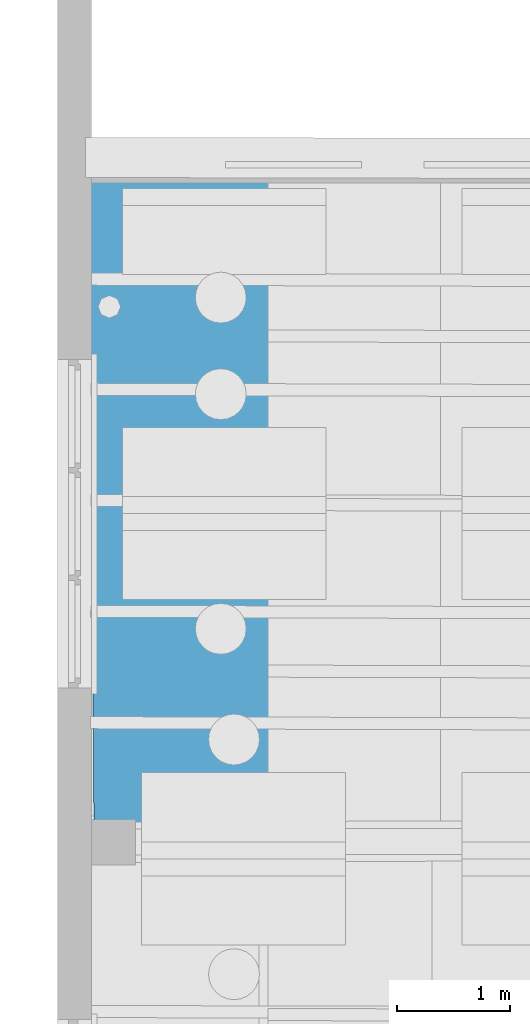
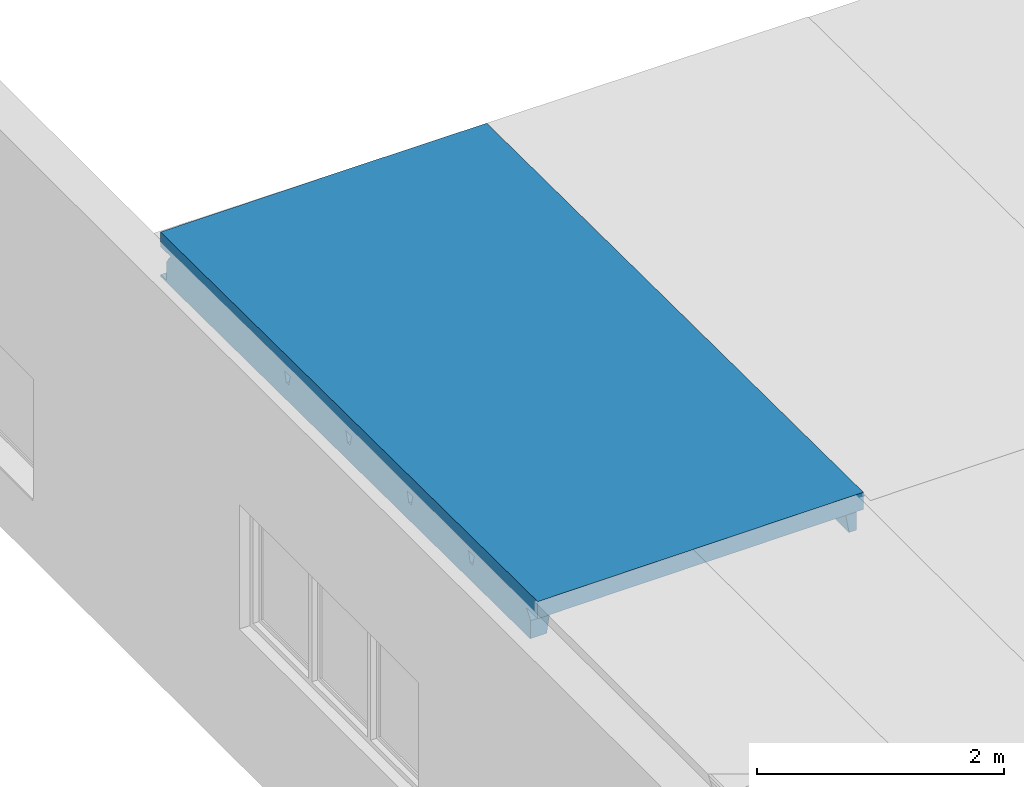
# One storey, part 22 of 153: 1 beam.
"""IFC2X3 building model written with IfcOpenShell, lengths in millimetres."""

from ifc_helpers import new_model, entity, si_unit, converted_unit, derived_unit, money_unit, direction, frame, origin_with_axes, place, context, subcontext, project, spatial, faceted_brep, material, type_object, element, save


model = new_model("IFC2X3")

# Units and contexts
model_context = context("Model", 3, precision=0.01, world=origin_with_axes(), true_north=direction((0.0, 1.0)))
body_context = subcontext(model_context, "Body", "Model", "MODEL_VIEW")
ifc_project = project(units=[si_unit("LENGTHUNIT", "METRE", prefix="MILLI"), si_unit("AREAUNIT", "SQUARE_METRE"), si_unit("VOLUMEUNIT", "CUBIC_METRE"), converted_unit("PLANEANGLEUNIT", "DEGREE", entity("IfcPlaneAngleMeasure", 0.0174532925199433), si_unit("PLANEANGLEUNIT", "RADIAN"), dimensions=[0, 0, 0, 0, 0, 0, 0]), money_unit("EUR"), converted_unit("TIMEUNIT", "Year", entity("IfcTimeMeasure", 31557600.0), si_unit("TIMEUNIT", "SECOND"), dimensions=[0, 0, 1, 0, 0, 0, 0]), si_unit("MASSUNIT", "GRAM", prefix="KILO"), si_unit("THERMODYNAMICTEMPERATUREUNIT", "DEGREE_CELSIUS"), si_unit("LUMINOUSINTENSITYUNIT", "LUMEN"), si_unit("ENERGYUNIT", "JOULE", prefix="MEGA"), derived_unit("THERMALCONDUCTANCEUNIT", [(si_unit("POWERUNIT", "WATT"), 1), (si_unit("LENGTHUNIT", "METRE"), -1), (si_unit("THERMODYNAMICTEMPERATUREUNIT", "KELVIN"), -1)]), derived_unit("SPECIFICHEATCAPACITYUNIT", [(si_unit("ENERGYUNIT", "JOULE"), 1), (si_unit("MASSUNIT", "GRAM", prefix="KILO"), -1), (si_unit("THERMODYNAMICTEMPERATUREUNIT", "KELVIN"), -1)]), derived_unit("MASSDENSITYUNIT", [(si_unit("MASSUNIT", "GRAM", prefix="KILO"), 1), (si_unit("VOLUMEUNIT", "CUBIC_METRE"), -1)])], contexts=[model_context])

# Site, building, storey
site_placement = place(None, frame((0.0, 0.0, 8650.0), z_axis=(0.0, 0.0, 1.0), x_axis=(1.0, 0.0, 0.0)))
site = spatial("IfcSite", under=ifc_project, at=site_placement, Name="43301:001:0844", CompositionType="ELEMENT")
building_placement = place(site_placement, origin_with_axes())
building = spatial("IfcBuilding", under=site, at=building_placement, Name="Kuressaare Ametikooli tuulikute mehaanikute õppekorpus", CompositionType="ELEMENT")
storey_placement = place(building_placement, frame((0.0, 0.0, 4100.0), z_axis=(0.0, 0.0, 1.0), x_axis=(1.0, 0.0, 0.0)))
storey = spatial("IfcBuildingStorey", under=building, at=storey_placement, Name="2.korrus", CompositionType="ELEMENT", Elevation=4100.0)

# Beam
ifc_material = material(Name="GENEERILINE - KONSTRUKTRIOON")
beam_type = type_object("IfcBeamType", Name="Precast Double Tee 5 3052 x 440", PredefinedType="NOTDEFINED")
beam_placement = place(storey_placement, frame((89772.00566424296, 38065.7725529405, 2975.0), z_axis=(0.0, 0.0, 1.0), x_axis=(-0.9999823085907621, -0.005948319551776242, 0.0)))
element("IfcBeam", 1, at=beam_placement, inside=storey, type_object=beam_type, material=ifc_material, context=body_context, shape_type="Brep", body=[
    faceted_brep([(1525.793513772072, 5923.137402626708, -258.4370837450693), (1525.793513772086, 5923.137941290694, -434.9999999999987), (1375.006807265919, 5923.491693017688, -434.9999999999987), (1347.227019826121, 5923.556326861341, -258.4370837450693), (1525.793513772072, 5917.73681317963, -440.0001340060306), (1525.793513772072, 5917.73681317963, -434.9999999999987), (1525.793513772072, 5903.915894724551, -226.2850273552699), (1525.793513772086, 5881.050039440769, -196.613920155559), (1525.793513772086, 5854.856556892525, -169.8347433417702), (1525.793513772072, 6037.597077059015, -169.8347433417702), (1525.793513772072, 6037.597077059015, 0.0), (1525.793513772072, 0.0, 0.0), (1525.793513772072, 0.0, -144.9098486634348), (1525.793513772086, 161.9032410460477, -144.9098486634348), (1525.793513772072, 150.9403309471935, -156.4427065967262), (1525.793513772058, 119.2668075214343, -197.4581574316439), (1525.793513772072, 93.67397214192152, -242.5188171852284), (1525.793513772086, 93.67343438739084, -420.0865585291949), (1525.793513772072, 0.0, -420.0865585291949), (1525.793513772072, 0.0, -440.0001340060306), (1525.793513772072, 4930.934323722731, -175.4405967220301), (1525.793513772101, 4922.735239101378, -169.866336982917), (1525.793513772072, 5029.766967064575, -169.866336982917), (1525.793513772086, 5021.567815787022, -175.4406717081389), (1525.793513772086, 5016.993032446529, -184.2365347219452), (1525.793513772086, 4996.252304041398, -271.8138152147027), (1525.793513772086, 4956.250817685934, -271.8138152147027), (1525.793513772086, 4935.509127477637, -184.236339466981), (1525.793513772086, 3940.009154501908, -169.866336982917), (1525.793513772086, 4047.04088246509, -169.866336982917), (1525.793513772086, 4038.841731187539, -175.4406717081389), (1525.793513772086, 4034.266947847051, -184.2365347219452), (1525.793513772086, 4013.526219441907, -271.8138152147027), (1525.793513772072, 3973.524733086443, -271.8138152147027), (1525.793513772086, 3952.783042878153, -184.236339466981), (1525.793513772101, 3948.20823912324, -175.4405967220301), (1525.793513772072, 3066.471969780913, -169.866336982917), (1525.793513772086, 3058.272818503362, -175.4406717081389), (1525.793513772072, 3053.698035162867, -184.2365347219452), (1525.793513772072, 3032.957306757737, -271.8138152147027), (1525.793513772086, 2992.955820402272, -271.8138152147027), (1525.793513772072, 2972.214130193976, -184.236339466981), (1525.793513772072, 2967.639326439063, -175.4405967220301), (1525.793513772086, 2959.440241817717, -169.866336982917), (1525.793513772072, 2077.330024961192, -175.4406717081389), (1525.793513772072, 2072.755241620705, -184.2365347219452), (1525.793513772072, 2052.01451321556, -271.8138152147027), (1525.793513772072, 2012.013026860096, -271.8138152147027), (1525.793513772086, 1991.271336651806, -184.236339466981), (1525.793513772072, 1986.6965328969, -175.4405967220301), (1525.793513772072, 1978.497448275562, -169.866336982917), (1525.793513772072, 2085.529176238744, -169.866336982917), (1375.006807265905, 5918.218969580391, -434.9999999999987), (1375.793510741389, 5918.216454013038, -440.0001340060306), (1375.793510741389, 0.0, -440.0001340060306), (1372.660378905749, 0.0, -420.0865585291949), (1372.660378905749, 94.91836716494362, -420.0865585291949), (1344.722495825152, 95.14603268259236, -242.5188171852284), (1341.120983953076, 108.1762978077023, -219.6283094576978), (1341.120983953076, 1028.766260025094, -219.6283094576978), (1349.331667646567, 1041.05499725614, -271.8138152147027), (1349.331667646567, 1081.056483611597, -271.8138152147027), (1341.120983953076, 1093.486241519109, -219.6283094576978), (1341.120983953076, 2001.245541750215, -219.6283094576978), (1349.331667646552, 2013.534278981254, -271.8138152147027), (1349.331667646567, 2053.535765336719, -271.8138152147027), (1341.120983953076, 2065.965523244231, -219.6283094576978), (1341.120983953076, 2982.188335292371, -219.6283094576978), (1349.331667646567, 2994.477072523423, -271.8138152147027), (1349.331667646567, 3034.478558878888, -271.8138152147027), (1341.120983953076, 3046.908316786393, -219.6283094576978), (1341.120983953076, 3962.757247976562, -219.6283094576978), (1349.331667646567, 3975.045985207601, -271.8138152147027), (1349.331667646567, 4015.047471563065, -271.8138152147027), (1341.120983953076, 4027.47722947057, -219.6283094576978), (1341.120983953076, 4945.483332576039, -219.6283094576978), (1349.331667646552, 4957.772069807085, -271.8138152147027), (1349.331667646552, 4997.77355616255, -271.8138152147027), (1341.120983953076, 5010.203314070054, -219.6283094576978), (1341.120983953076, 5899.219185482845, -219.6283094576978), (1342.168328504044, 5904.346686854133, -226.2850273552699), (1335.231751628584, 5884.049989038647, -199.9265840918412), (1332.694622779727, 5881.503057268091, -196.613920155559), (1322.728523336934, 5868.798557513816, -183.6014402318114), (1305.241949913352, 5858.256753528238, -172.7819767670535), (1289.995499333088, 5855.409748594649, -169.8347433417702), (1289.995499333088, 6037.597077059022, -169.8347433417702), (-1362.613598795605, 6037.597077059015, -169.8234995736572), (-1362.705748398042, 6037.597077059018, -169.8347433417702), (-1525.793513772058, 6037.597077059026, -169.8347433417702), (-1525.793513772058, 6037.597077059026, 0.0), (1285.052602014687, 6037.597077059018, -168.8792506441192), (-1525.793513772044, 7.595304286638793, 0.0), (-248.9337470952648, 0.0, 0.0), (-248.9337470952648, 0.0, -144.9098486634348), (-1525.793513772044, 7.595304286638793, -144.9098486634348), (-1525.793513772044, 186.7118542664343, -144.9098486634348), (-1525.793513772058, 175.7489441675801, -156.4427065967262), (-1407.703039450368, 146.1460136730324, -193.5336498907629), (-1395.945134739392, 156.3199655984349, -180.2351660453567), (-1380.233917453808, 162.5722007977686, -171.973468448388), (-1362.61359879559, 164.089231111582, -169.8234995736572), (1285.052602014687, 143.293570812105, -168.8792506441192), (1305.241949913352, 140.1156190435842, -172.7819767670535), (1322.728523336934, 131.6183007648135, -183.6014402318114), (1333.341213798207, 120.8313949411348, -197.4581574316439), (-1525.793513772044, 144.075420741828, -197.4581574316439), (-1409.186046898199, 143.1274321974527, -197.4581574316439), (1335.231751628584, 119.4140477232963, -199.9265840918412), (1309.538849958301, 4932.798623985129, -175.4405967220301), (1305.241949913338, 4928.925147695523, -172.7819767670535), (1290.158937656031, 4924.766610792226, -169.866336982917), (1290.158937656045, 5031.798338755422, -169.866336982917), (1309.538971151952, 5023.432115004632, -175.4406717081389), (1305.241949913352, 5027.379767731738, -172.7819767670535), (1323.214934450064, 5018.739433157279, -184.2365347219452), (1322.728523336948, 5019.073943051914, -183.6014402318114), (1335.231751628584, 5014.919999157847, -199.9265840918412), (1335.231751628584, 4940.867981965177, -199.9265840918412), (1323.214784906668, 4937.255529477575, -184.236339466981), (1322.728523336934, 4936.929500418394, -183.6014402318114), (1290.158937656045, 4049.072254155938, -169.866336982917), (1290.158937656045, 3942.040526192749, -169.866336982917), (1305.241949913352, 4044.653683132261, -172.7819767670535), (1309.538971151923, 4040.706030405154, -175.4406717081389), (1322.728523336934, 4036.34785845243, -183.6014402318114), (1323.21493445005, 4036.013348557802, -184.2365347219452), (1335.231751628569, 4032.193914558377, -199.9265840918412), (1335.231751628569, 3958.141897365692, -199.9265840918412), (1323.214784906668, 3954.529444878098, -184.236339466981), (1322.728523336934, 3954.20341581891, -183.6014402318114), (1309.538849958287, 3950.072539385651, -175.4405967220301), (1305.241949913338, 3946.199063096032, -172.7819767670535), (1290.158937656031, 3068.503341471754, -169.866336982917), (1305.241949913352, 3064.084770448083, -172.7819767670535), (1309.538971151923, 3060.137117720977, -175.4406717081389), (1322.728523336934, 3055.778945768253, -183.6014402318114), (1323.214934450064, 3055.444435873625, -184.2365347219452), (1335.231751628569, 3051.625001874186, -199.9265840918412), (1335.231751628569, 2977.572984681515, -199.9265840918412), (1323.214784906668, 2973.960532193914, -184.236339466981), (1322.728523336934, 2973.634503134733, -183.6014402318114), (1309.538849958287, 2969.503626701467, -175.4405967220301), (1305.241949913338, 2965.630150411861, -172.7819767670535), (1290.158937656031, 2961.471613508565, -169.866336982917), (1309.538971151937, 2079.194324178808, -175.4406717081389), (1322.728523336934, 2074.836152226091, -183.6014402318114), (1323.214934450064, 2074.501642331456, -184.2365347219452), (1335.231751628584, 2070.68220833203, -199.9265840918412), (1323.214784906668, 1993.017738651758, -184.236339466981), (1335.231751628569, 1996.630191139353, -199.9265840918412), (1322.728523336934, 1992.69170959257, -183.6014402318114), (1309.538849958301, 1988.560833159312, -175.4405967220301), (1305.241949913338, 1984.687356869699, -172.7819767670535), (1290.158937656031, 1980.528819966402, -169.866336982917), (1290.158937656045, 2087.560547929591, -169.866336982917), (1305.241949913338, 2083.141976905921, -172.7819767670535), (1335.231751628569, 1024.150909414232, -199.9265840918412), (1519.227661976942, 1018.848658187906, -184.236339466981), (1519.406459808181, 1039.588807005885, -271.8138152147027), (1323.214784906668, 1020.53845692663, -184.236339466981), (1519.751281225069, 1079.587320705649, -271.8138152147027), (1519.930070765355, 1100.326507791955, -184.2365347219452), (1323.214934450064, 1102.022360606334, -184.2365347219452), (1335.231751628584, 1098.202926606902, -199.9265840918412), (1305.241949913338, 1110.662695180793, -172.7819767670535), (1290.158937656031, 1115.08126620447, -169.866336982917), (1290.158937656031, 1008.049538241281, -169.866336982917), (1305.241949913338, 1012.208075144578, -172.7819767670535), (-1380.233917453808, 1034.169953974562, -171.973468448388), (-1362.964677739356, 1030.921734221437, -169.866336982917), (-1362.96467773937, 1137.953462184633, -169.866336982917), (-1380.233917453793, 1135.003010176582, -171.973468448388), (-1380.233917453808, 2006.649235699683, -171.973468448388), (-1362.96467773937, 2003.401015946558, -169.866336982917), (-1362.96467773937, 2110.432743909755, -169.866336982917), (-1380.233917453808, 2107.482291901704, -171.973468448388), (-1380.233917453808, 2987.592029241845, -171.973468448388), (-1362.96467773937, 2984.343809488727, -169.866336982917), (-1362.96467773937, 3091.375537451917, -169.866336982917), (-1380.233917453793, 3088.425085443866, -171.973468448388), (-1380.233917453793, 3968.160941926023, -171.973468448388), (-1362.96467773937, 3964.912722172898, -169.866336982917), (-1362.96467773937, 4071.944450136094, -169.866336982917), (-1380.233917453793, 4068.993998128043, -171.973468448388), (-1380.233917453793, 4950.887026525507, -171.973468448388), (-1362.964677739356, 4947.638806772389, -169.866336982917), (-1362.96467773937, 5054.670534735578, -169.866336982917), (-1380.233917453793, 5051.720082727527, -171.973468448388), (-1380.233917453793, 5863.766163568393, -171.973468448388), (-1362.705748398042, 5861.633093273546, -169.8347433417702), (-1525.793513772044, 5862.015703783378, -169.8347433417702), (-1525.793513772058, 5930.297088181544, -434.9999999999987), (-1525.793513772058, 5927.494584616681, -434.9999999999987), (-1525.793513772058, 5927.494584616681, -440.0001340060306), (-1525.793513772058, 0.0, -440.0001340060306), (-1525.793513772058, 0.0, -420.0865585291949), (-1525.793513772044, 118.4820476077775, -420.0865585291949), (-1525.793513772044, 118.4825853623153, -242.5188171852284), (-1525.793513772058, 5888.209186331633, -196.613920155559), (-1525.793513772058, 5911.075041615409, -226.2850273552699), (-1525.793513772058, 5930.296549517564, -258.4370837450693), (-1525.793513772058, 5043.300324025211, -184.2365347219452), (-1525.793513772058, 5047.875107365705, -175.4406717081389), (-1525.793513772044, 5056.07425864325, -169.866336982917), (-1525.793513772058, 4949.042530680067, -169.866336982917), (-1525.793513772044, 4957.241615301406, -175.4405967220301), (-1525.793513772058, 4961.816419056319, -184.236339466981), (-1525.793513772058, 4982.558109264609, -271.8138152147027), (-1525.793513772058, 5022.559595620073, -271.8138152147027), (-1525.793513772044, 4065.149022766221, -175.4406717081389), (-1525.793513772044, 4073.34817404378, -169.866336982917), (-1525.793513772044, 3966.316446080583, -169.866336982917), (-1525.793513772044, 3974.515530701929, -175.4405967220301), (-1525.793513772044, 3979.090334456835, -184.236339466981), (-1525.793513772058, 3999.832024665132, -271.8138152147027), (-1525.793513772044, 4039.833511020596, -271.8138152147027), (-1525.793513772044, 4060.574239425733, -184.2365347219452), (-1525.793513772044, 3092.779261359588, -169.866336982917), (-1525.793513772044, 2985.747533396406, -169.866336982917), (-1525.793513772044, 2993.946618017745, -175.4405967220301), (-1525.793513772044, 2998.521421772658, -184.236339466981), (-1525.793513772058, 3019.263111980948, -271.8138152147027), (-1525.793513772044, 3059.264598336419, -271.8138152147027), (-1525.793513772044, 3080.005326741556, -184.2365347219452), (-1525.793513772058, 3084.580110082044, -175.4406717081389), (-1525.793513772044, 2004.804739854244, -169.866336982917), (-1525.793513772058, 2013.003824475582, -175.4405967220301), (-1525.793513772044, 2017.578628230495, -184.236339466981), (-1525.793513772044, 2038.320318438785, -271.8138152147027), (-1525.793513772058, 2078.32180479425, -271.8138152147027), (-1525.793513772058, 2099.062533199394, -184.2365347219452), (-1525.793513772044, 2103.637316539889, -175.4406717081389), (-1525.793513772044, 2111.836467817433, -169.866336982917), (-1525.793513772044, 1040.524542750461, -175.4405967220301), (-1525.793513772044, 1045.099346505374, -184.236339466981), (-1525.79351377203, 1065.841036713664, -271.8138152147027), (-1525.793513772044, 1105.842523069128, -271.8138152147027), (-1525.793513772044, 1126.583251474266, -184.2365347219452), (-1525.793513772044, 1131.15803481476, -175.4406717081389), (-1525.793513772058, 1139.357186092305, -169.866336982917), (-1525.793513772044, 1032.325458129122, -169.866336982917), (-1395.945134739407, 1041.898869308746, -180.2351660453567), (-1407.703039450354, 1046.283263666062, -193.5336498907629), (-1399.48278732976, 1044.0104399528, -184.236339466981), (-1386.827333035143, 1039.326535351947, -175.4405967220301), (1322.728523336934, 1020.212427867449, -183.6014402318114), (1309.538849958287, 1016.081551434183, -175.4405967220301), (-1419.868299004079, 117.6214407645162, -242.5188171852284), (-1413.977792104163, 135.964333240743, -210.1386333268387), (-1413.977792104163, 1050.270051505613, -210.1386333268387), (1322.728523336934, 1102.356870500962, -183.6014402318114), (1309.538971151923, 1106.715042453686, -175.4406717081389), (1519.188226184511, 1014.274194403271, -175.4405967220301), (1519.117548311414, 1006.075719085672, -169.866336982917), (1520.040184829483, 1113.099493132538, -169.866336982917), (1519.969506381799, 1104.900951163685, -175.4406717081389), (-1386.827475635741, 1129.960028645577, -175.4406717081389), (-1395.945134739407, 2014.378151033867, -180.2351660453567), (-1386.827333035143, 2011.805817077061, -175.4405967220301), (-1395.945134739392, 1127.54498419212, -180.2351660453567), (-1386.827475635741, 2102.439310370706, -175.4406717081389), (-1395.945134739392, 2100.024265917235, -180.2351660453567), (-1395.945134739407, 2995.320944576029, -180.2351660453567), (-1386.827333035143, 2992.74861061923, -175.4405967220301), (-1386.827475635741, 3083.382103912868, -175.4406717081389), (-1395.945134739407, 3080.967059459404, -180.2351660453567), (-1395.945134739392, 3975.889857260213, -180.2351660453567), (-1386.827333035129, 3973.317523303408, -175.4405967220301), (-1386.827475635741, 4063.951016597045, -175.4406717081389), (-1395.945134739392, 4061.535972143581, -180.2351660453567), (-1395.945134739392, 4958.615941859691, -180.2351660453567), (-1386.827333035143, 4956.043607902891, -175.4405967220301), (-1386.827475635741, 5046.677101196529, -175.4406717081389), (-1395.945134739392, 5871.884026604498, -180.2351660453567), (-1395.945134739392, 5044.262056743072, -180.2351660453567), (-1407.703039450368, 5884.919240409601, -193.5336498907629), (-1408.867023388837, 5887.934872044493, -196.613920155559), (-1454.883904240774, 5927.267843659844, -434.9999999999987), (-1454.883904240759, 5930.130731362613, -434.9999999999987), (-1455.793513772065, 5927.270752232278, -440.0001340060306), (-1455.793513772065, 0.0, -440.0001340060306), (-1452.170895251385, 0.0, -420.0865585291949), (-1452.170895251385, 117.8835147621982, -420.0865585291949), (-1413.977792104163, 5898.369598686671, -210.1386333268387), (-1416.915096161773, 5910.8196084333, -226.2850273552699), (-1422.764102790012, 5930.054838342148, -258.4370837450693), (-1399.482959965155, 5042.211418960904, -184.2365347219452), (-1399.482787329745, 4960.727512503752, -184.236339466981), (-1413.977792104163, 4966.987124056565, -210.1386333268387), (-1425.197558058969, 4981.690886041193, -271.8138152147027), (-1407.703039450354, 4963.000336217, -193.5336498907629), (-1425.197558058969, 5021.692372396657, -271.8138152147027), (-1407.703039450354, 5040.080468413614, -193.5336498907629), (-1413.977792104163, 5036.202041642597, -210.1386333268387), (-1399.482787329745, 3978.00142790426, -184.236339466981), (-1425.197558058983, 3998.964801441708, -271.8138152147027), (-1407.703039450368, 3980.27425161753, -193.5336498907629), (-1413.977792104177, 3984.261039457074, -210.1386333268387), (-1425.197558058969, 4038.966287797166, -271.8138152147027), (-1399.482959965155, 4059.485334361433, -184.2365347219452), (-1413.977792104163, 4053.475957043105, -210.1386333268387), (-1407.703039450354, 4057.354383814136, -193.5336498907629), (-1399.48278732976, 2997.43251522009, -184.236339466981), (-1407.703039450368, 2999.705338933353, -193.5336498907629), (-1413.977792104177, 3003.692126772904, -210.1386333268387), (-1425.197558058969, 3018.395888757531, -271.8138152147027), (-1425.197558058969, 3058.397375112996, -271.8138152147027), (-1413.977792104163, 3072.907044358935, -210.1386333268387), (-1407.703039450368, 3076.785471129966, -193.5336498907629), (-1399.482959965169, 3078.916421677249, -184.2365347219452), (-1399.482787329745, 2016.489721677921, -184.236339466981), (-1407.703039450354, 2018.762545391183, -193.5336498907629), (-1413.977792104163, 2022.749333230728, -210.1386333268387), (-1425.197558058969, 2037.453095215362, -271.8138152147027), (-1425.197558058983, 2077.454581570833, -271.8138152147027), (-1413.977792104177, 2091.964250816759, -210.1386333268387), (-1407.703039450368, 2095.84267758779, -193.5336498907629), (-1399.482959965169, 2097.973628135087, -184.2365347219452), (-1425.197558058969, 1064.973813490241, -271.8138152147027), (-1425.197558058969, 1104.975299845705, -271.8138152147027), (-1413.977792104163, 1119.484969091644, -210.1386333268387), (-1407.703039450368, 1123.363395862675, -193.5336498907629), (-1399.482959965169, 1125.494346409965, -184.2365347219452)], [[[0, 1, 2, 3]], [[4, 5, 1, 0, 6, 7, 8, 9, 10, 11, 12, 13, 14, 15, 16, 17, 18, 19], [20, 21, 22, 23, 24, 25, 26, 27], [28, 29, 30, 31, 32, 33, 34, 35], [36, 37, 38, 39, 40, 41, 42, 43], [44, 45, 46, 47, 48, 49, 50, 51]], [[5, 52, 2, 1]], [[2, 52, 53, 54, 55, 56, 57, 58, 59, 60, 61, 62, 63, 64, 65, 66, 67, 68, 69, 70, 71, 72, 73, 74, 75, 76, 77, 78, 79, 80, 3]], [[0, 3, 80, 6]], [[4, 53, 52, 5]], [[6, 80, 79, 81, 82, 7]], [[7, 82, 83, 84, 85, 8]], [[8, 85, 86, 9]], [[87, 88, 89, 90, 10, 9, 86, 91]], [[90, 92, 93, 11, 10]], [[12, 11, 93, 94]], [[13, 12, 94, 95, 96]], [[14, 13, 96, 97]], [[98, 99, 100, 101, 102, 103, 104, 105, 15, 14, 97, 106, 107]], [[58, 57, 16, 15, 105, 108]], [[17, 16, 57, 56]], [[18, 17, 56, 55]], [[54, 19, 18, 55]], [[54, 53, 4, 19]], [[21, 20, 109, 110, 111]], [[111, 112, 22, 21]], [[113, 23, 22, 112, 114]], [[115, 24, 23, 113, 116]], [[25, 24, 115, 117, 78, 77]], [[77, 76, 26, 25]], [[76, 75, 118, 119, 27, 26]], [[20, 27, 119, 120, 109]], [[121, 29, 28, 122]], [[30, 29, 121, 123, 124]], [[31, 30, 124, 125, 126]], [[31, 126, 127, 74, 73, 32]], [[72, 33, 32, 73]], [[71, 128, 129, 34, 33, 72]], [[34, 129, 130, 131, 35]], [[35, 131, 132, 122, 28]], [[36, 133, 134, 135, 37]], [[37, 135, 136, 137, 38]], [[137, 138, 70, 69, 39, 38]], [[40, 39, 69, 68]], [[139, 140, 41, 40, 68, 67]], [[140, 141, 142, 42, 41]], [[142, 143, 144, 43, 42]], [[36, 43, 144, 133]], [[145, 146, 147, 45, 44]], [[148, 66, 65, 46, 45, 147]], [[46, 65, 64, 47]], [[149, 48, 47, 64, 63, 150]], [[151, 152, 49, 48, 149]], [[153, 154, 50, 49, 152]], [[50, 154, 155, 51]], [[155, 156, 145, 44, 51]], [[157, 59, 58, 108]], [[158, 159, 60, 59, 157, 160]], [[61, 60, 159, 161]], [[62, 61, 161, 162, 163, 164]], [[62, 164, 150, 63]], [[67, 66, 148, 139]], [[128, 71, 70, 138]], [[127, 118, 75, 74]], [[78, 117, 81, 79]], [[81, 117, 115, 116, 83, 82]], [[84, 83, 116, 113, 114]], [[154, 153, 165, 166, 167, 168, 103, 102, 91, 86, 85, 84, 114, 112, 111, 110, 123, 121, 122, 132, 134, 133, 144, 143, 156, 155]], [[101, 100, 169, 170, 171, 172, 173, 174, 175, 176, 177, 178, 179, 180, 181, 182, 183, 184, 185, 186, 187, 188, 189, 190, 88, 87]], [[190, 191, 89, 88]], [[192, 193, 194, 195, 196, 197, 198, 106, 97, 96, 95, 92, 90, 89, 191, 199, 200, 201], [202, 203, 204, 205, 206, 207, 208, 209], [210, 211, 212, 213, 214, 215, 216, 217], [218, 219, 220, 221, 222, 223, 224, 225], [226, 227, 228, 229, 230, 231, 232, 233], [234, 235, 236, 237, 238, 239, 240, 241]], [[87, 91, 102, 101]], [[93, 92, 95, 94]], [[242, 99, 98, 243, 244]], [[169, 100, 99, 242, 245]], [[246, 104, 103, 168, 247]], [[108, 105, 104, 246, 160, 157]], [[106, 198, 248, 249, 107]], [[243, 98, 107, 249, 250]], [[125, 124, 123, 110, 109, 120]], [[127, 126, 125, 120, 119, 118]], [[137, 136, 130, 129, 128, 138]], [[135, 134, 132, 131, 130, 136]], [[146, 141, 140, 139, 148, 147]], [[156, 143, 142, 141, 146, 145]], [[151, 149, 150, 164, 163, 251]], [[153, 152, 151, 251, 252, 165]], [[158, 253, 254, 255, 256, 162, 161, 159]], [[247, 253, 158, 160, 246]], [[251, 163, 162, 256, 252]], [[165, 252, 256, 255, 166]], [[167, 166, 255, 254]], [[167, 254, 253, 247, 168]], [[241, 170, 169, 245, 234]], [[241, 240, 171, 170]], [[239, 257, 172, 171, 240]], [[258, 259, 173, 172, 257, 260]], [[227, 226, 174, 173, 259]], [[174, 226, 233, 175]], [[233, 232, 261, 176, 175]], [[262, 263, 264, 177, 176, 261]], [[264, 220, 219, 178, 177]], [[179, 178, 219, 218]], [[179, 218, 225, 265, 180]], [[265, 266, 267, 268, 181, 180]], [[181, 268, 213, 212, 182]], [[211, 183, 182, 212]], [[184, 183, 211, 210, 269]], [[184, 269, 270, 271, 272, 185]], [[186, 185, 272, 206, 205]], [[205, 204, 187, 186]], [[273, 188, 187, 204, 203]], [[274, 189, 188, 273, 275]], [[276, 277, 199, 191, 190, 189, 274]], [[278, 193, 192, 279]], [[280, 194, 193, 278]], [[195, 194, 280, 281]], [[195, 281, 282, 196]], [[282, 283, 197, 196]], [[283, 248, 198, 197]], [[199, 277, 284, 285, 200]], [[286, 201, 200, 285]], [[286, 279, 192, 201]], [[287, 275, 273, 203, 202]], [[272, 271, 288, 207, 206]], [[289, 290, 208, 207, 288, 291]], [[209, 208, 290, 292]], [[293, 287, 202, 209, 292, 294]], [[267, 295, 214, 213, 268]], [[296, 215, 214, 295, 297, 298]], [[215, 296, 299, 216]], [[300, 217, 216, 299, 301, 302]], [[270, 269, 210, 217, 300]], [[303, 221, 220, 264, 263]], [[222, 221, 303, 304, 305, 306]], [[306, 307, 223, 222]], [[224, 223, 307, 308, 309, 310]], [[265, 225, 224, 310, 266]], [[228, 227, 259, 258, 311]], [[228, 311, 312, 313, 314, 229]], [[315, 230, 229, 314]], [[230, 315, 316, 317, 318, 231]], [[232, 231, 318, 262, 261]], [[234, 245, 242, 244, 235]], [[244, 243, 250, 319, 236, 235]], [[237, 236, 319, 320]], [[320, 321, 322, 323, 238, 237]], [[238, 323, 260, 257, 239]], [[280, 278, 279, 286, 285, 284, 294, 292, 290, 289, 301, 299, 296, 298, 308, 307, 306, 305, 316, 315, 314, 313, 321, 320, 319, 250, 249, 248, 283, 282, 281]], [[312, 311, 258, 260, 323, 322]], [[317, 304, 303, 263, 262, 318]], [[310, 309, 297, 295, 267, 266]], [[270, 300, 302, 291, 288, 271]], [[276, 274, 275, 287, 293]], [[284, 277, 276, 293, 294]], [[301, 289, 291, 302]], [[298, 297, 309, 308]], [[304, 317, 316, 305]], [[322, 321, 313, 312]]]),
])

save(model, "model.ifc")
